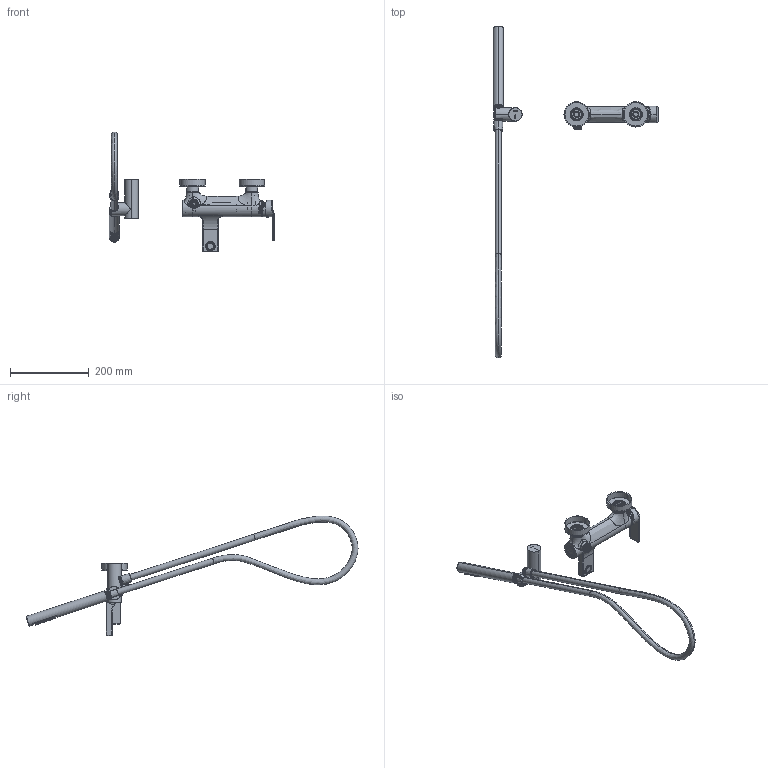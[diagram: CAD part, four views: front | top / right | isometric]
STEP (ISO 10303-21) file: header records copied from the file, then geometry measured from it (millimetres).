
FILE_DESCRIPTION((''),'2;1');
FILE_NAME('3D_SW0001','2024-02-20T11:30:12',('volponeff'),(''),'CREO PARAMETRIC BY PTC INC, 2022014','CREO PARAMETRIC BY PTC INC, 2022014','');
FILE_SCHEMA(('CONFIG_CONTROL_DESIGN'));
Products named in the file (1): 3D_SW0001
Bounding box: 419.35 x 840.6 x 303.38 mm (x, y, z)
Volume: 696912 mm3; surface area: 307177.7 mm2
Topology: 6 solids, 9 shells, 2280 faces, 5753 edges, 3637 vertices
Faces by surface type: cylinder 925, plane 532, bspline 306, cone 257, torus 208, sphere 40, extrusion 12
Entity records: 168273 total; most frequent: CARTESIAN_POINT 116082, ORIENTED_EDGE 11482, DIRECTION 10058, EDGE_CURVE 5741, AXIS2_PLACEMENT_3D 3970, VERTEX_POINT 3637, EDGE_LOOP 2496, FACE_OUTER_BOUND 2280
